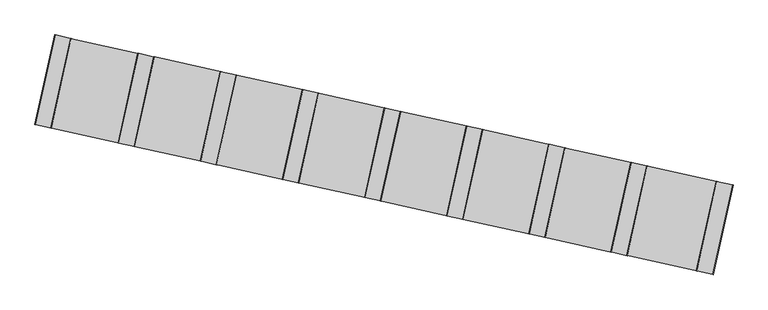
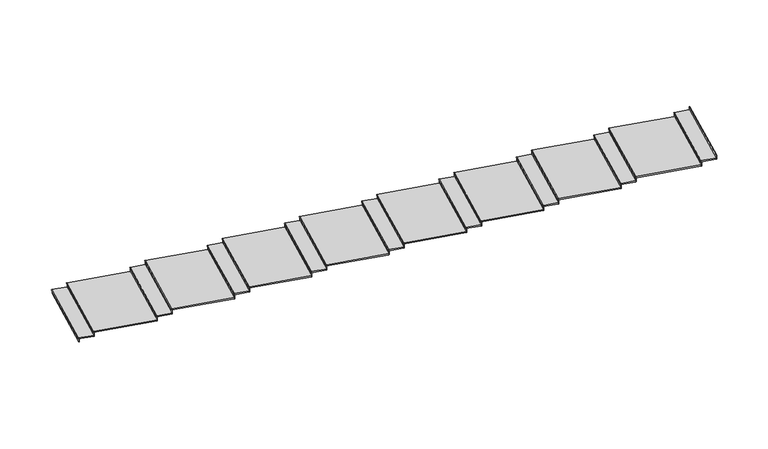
"""IFC4 building model written with IfcOpenShell, lengths in millimetres: stair flight geometry, Wood Steps with 50 mm Tread 20 mm Nosing 13 mm Riser."""

from ifc_helpers import new_model, si_unit, frame, origin, place, context, project, spatial, ellipse_curve, faceted_brep, source, transform, mapped, element, save
from ifc_brep_helpers import plane_surface, cylinder_surface, advanced_brep


def stair_flight_15943dde(model_context):
    return source(origin(), model_context, "Body", "SolidModel", [
        advanced_brep(
        [(870356.5854162, 72354.7463938, 3149.3333333), (870356.5854162, 72354.7463938, 3169.3333333), (871011.6730246, 75320.4431972, 3169.3333333), (871011.6730246, 75320.4431972, 3149.3333333), (871548.026615, 75201.5331851, 3169.3333333), (870892.9390066, 72235.8363816, 3169.3333333), (871011.6730246, 75320.4431972, 3119.3333333), (871548.026615, 75201.5331851, 3119.3333333), (870892.9390066, 72235.8363816, 3119.3333333), (870356.5854162, 72354.7463938, 3119.3333333)],
        [
            (0, 1, ellipse_curve(frame((870356.5854162, 72354.7463938, 3159.3333333), z_axis=(0.2164453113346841, 0.9762947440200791, 0.0), x_axis=(0.9762947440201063, -0.21644531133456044, 0.0)), 10.000003, 10.0)),
            (1, 2),
            (2, 3, ellipse_curve(frame((871011.6730246, 75320.4431972, 3159.3333333), z_axis=(-0.21644531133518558, -0.9762947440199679, 0.0), x_axis=(0.9762947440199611, -0.21644531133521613, 0.0)), 10.000003, 10.0)),
            (3, 0),
            (4, 2),
            (1, 5),
            (5, 4),
            (6, 7),
            (7, 8),
            (8, 9),
            (9, 6),
            (4, 7),
            (6, 3),
            (9, 0),
            (8, 5),
        ],
        [
            cylinder_surface(frame((870356.5854162, 72354.7463938, 3159.3333333), z_axis=(-0.21568901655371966, -0.9764621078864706, 0.0), x_axis=(0.9764621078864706, -0.21568901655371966, 0.0)), 10.0),
            plane_surface(frame((865784.3741298, 76479.3394667, 3169.3333333), z_axis=(0.0, 0.0, 1.0), x_axis=(-0.9762947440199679, 0.21644531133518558, 0.0))),
            plane_surface(frame((865784.3741298, 76479.3394667, 3119.3333333), z_axis=(0.0, 0.0, -1.0), x_axis=(0.9762947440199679, -0.21644531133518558, 0.0))),
            plane_surface(frame((871548.026615, 75201.5331851, 3169.3333333), z_axis=(0.21644531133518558, 0.9762947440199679, 0.0), x_axis=(0.0, 0.0, -1.0))),
            plane_surface(frame((871011.6730246, 75320.4431972, 3169.3333333), z_axis=(-0.9764621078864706, 0.21568901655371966, 0.0), x_axis=(0.0, 0.0, -1.0))),
            plane_surface(frame((870356.5854162, 72354.7463938, 3169.3333333), z_axis=(-0.2164453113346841, -0.9762947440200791, 0.0), x_axis=(0.0, 0.0, -1.0))),
            plane_surface(frame((870892.9390066, 72235.8363816, 3169.3333333), z_axis=(0.976462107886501, -0.21568901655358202, 0.0), x_axis=(0.0, 0.0, -1.0))),
        ],
        [
            (0, [[1, 2, 3, 4]]),
            (1, [[5, -2, 6, 7]]),
            (2, [[8, 9, 10, 11]]),
            (3, [[-5, 12, -8, 13, -3]]),
            (4, [[-11, 14, -4, -13]]),
            (5, [[-6, -1, -14, -10, 15]]),
            (6, [[-7, -15, -9, -12]]),
        ],
    ),
        faceted_brep([(870366.3483666, 72352.58194, 3119.3333333), (870366.3483666, 72352.58194, 3000.0), (870378.5520546, 72349.8763728, 3000.0), (870378.5520546, 72349.8763728, 3119.3333333), (871021.435975, 75318.2787435, 3119.3333333), (871033.6396629, 75315.5731762, 3119.3333333), (871033.6396629, 75315.5731762, 3000.0), (871021.435975, 75318.2787435, 3000.0)], [[[0, 1, 2, 3]], [[4, 5, 6, 7]], [[1, 0, 4, 7]], [[2, 1, 7, 6]], [[3, 2, 6, 5]], [[0, 3, 5, 4]]]),
        faceted_brep([(870892.9390066, 72235.8363816, 3288.6666667), (870892.9390066, 72235.8363816, 3119.3333333), (870905.1426946, 72233.1308144, 3119.3333333), (870905.1426946, 72233.1308144, 3288.6666667), (871548.026615, 75201.5331851, 3288.6666667), (871560.2303029, 75198.8276179, 3288.6666667), (871560.2303029, 75198.8276179, 3119.3333333), (871548.026615, 75201.5331851, 3119.3333333)], [[[0, 1, 2, 3]], [[4, 5, 6, 7]], [[1, 0, 4, 7]], [[2, 1, 7, 6]], [[3, 2, 6, 5]], [[0, 3, 5, 4]]]),
        advanced_brep(
        [(873770.6544649, 74708.7748456, 3338.6666667), (871538.2636646, 75203.6976389, 3338.6666667), (870883.1760562, 72238.0008354, 3338.6666667), (873115.5668565, 71743.0780421, 3338.6666667), (871538.2636646, 75203.6976389, 3288.6666667), (873770.6544649, 74708.7748456, 3288.6666667), (873115.5668565, 71743.0780421, 3288.6666667), (870883.1760562, 72238.0008354, 3288.6666667), (871538.2636646, 75203.6976389, 3318.6666667), (870883.1760562, 72238.0008354, 3318.6666667)],
        [
            (0, 1),
            (1, 2),
            (2, 3),
            (3, 0),
            (4, 5),
            (5, 6),
            (6, 7),
            (7, 4),
            (0, 5),
            (4, 8),
            (8, 1, ellipse_curve(frame((871538.2636646, 75203.6976389, 3328.6666667), z_axis=(0.21644531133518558, 0.9762947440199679, 0.0), x_axis=(0.9762947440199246, -0.2164453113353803, 0.0)), 10.000003, 10.0)),
            (7, 9),
            (9, 8),
            (2, 9, ellipse_curve(frame((870883.1760562, 72238.0008354, 3328.6666667), z_axis=(-0.2164453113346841, -0.9762947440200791, 0.0), x_axis=(0.9762947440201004, -0.21644531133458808, 0.0)), 10.000003, 10.0)),
            (6, 3),
        ],
        [
            plane_surface(frame((865784.3741298, 76479.3394667, 3338.6666667), z_axis=(0.0, 0.0, 1.0), x_axis=(-0.9762947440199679, 0.21644531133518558, 0.0))),
            plane_surface(frame((865784.3741298, 76479.3394667, 3288.6666667), z_axis=(0.0, 0.0, -1.0), x_axis=(0.9762947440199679, -0.21644531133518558, 0.0))),
            plane_surface(frame((873770.6544649, 74708.7748456, 3338.6666667), z_axis=(0.21644531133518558, 0.9762947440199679, 0.0), x_axis=(0.0, 0.0, -1.0))),
            plane_surface(frame((871538.2636646, 75203.6976389, 3338.6666667), z_axis=(-0.976462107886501, 0.21568901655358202, 0.0), x_axis=(0.0, 0.0, -1.0))),
            plane_surface(frame((870883.1760562, 72238.0008354, 3338.6666667), z_axis=(-0.2164453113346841, -0.9762947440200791, 0.0), x_axis=(0.0, 0.0, -1.0))),
            plane_surface(frame((873115.5668565, 71743.0780421, 3338.6666667), z_axis=(0.9764621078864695, -0.21568901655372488, 0.0), x_axis=(0.0, 0.0, -1.0))),
            cylinder_surface(frame((870883.1760562, 72238.0008354, 3328.6666667), z_axis=(-0.21568901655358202, -0.976462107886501, 0.0), x_axis=(0.976462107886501, -0.21568901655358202, 0.0)), 10.0),
        ],
        [
            (0, [[1, 2, 3, 4]]),
            (1, [[5, 6, 7, 8]]),
            (2, [[-1, 9, -5, 10, 11]]),
            (3, [[-8, 12, 13, -10]]),
            (4, [[-3, 14, -12, -7, 15]]),
            (5, [[-4, -15, -6, -9]]),
            (6, [[-14, -2, -11, -13]]),
        ],
    ),
        faceted_brep([(873115.5668565, 71743.0780421, 3458.0), (873115.5668565, 71743.0780421, 3288.6666667), (873127.7705445, 71740.3724749, 3288.6666667), (873127.7705445, 71740.3724749, 3458.0), (873770.6544649, 74708.7748456, 3458.0), (873782.8581528, 74706.0692784, 3458.0), (873782.8581528, 74706.0692784, 3288.6666667), (873770.6544649, 74708.7748456, 3288.6666667)], [[[0, 1, 2, 3]], [[4, 5, 6, 7]], [[1, 0, 4, 7]], [[2, 1, 7, 6]], [[3, 2, 6, 5]], [[0, 3, 5, 4]]]),
        advanced_brep(
        [(874297.2451049, 74592.0292872, 3508.0), (873760.8915145, 74710.9392993, 3508.0), (873105.8039061, 71745.2424959, 3508.0), (873642.1574965, 71626.3324837, 3508.0), (873760.8915145, 74710.9392993, 3458.0), (874297.2451049, 74592.0292872, 3458.0), (873642.1574965, 71626.3324837, 3458.0), (873105.8039061, 71745.2424959, 3458.0), (873760.8915145, 74710.9392993, 3488.0), (873105.8039061, 71745.2424959, 3488.0)],
        [
            (0, 1),
            (1, 2),
            (2, 3),
            (3, 0),
            (4, 5),
            (5, 6),
            (6, 7),
            (7, 4),
            (0, 5),
            (4, 8),
            (8, 1, ellipse_curve(frame((873760.8915145, 74710.9392993, 3498.0), z_axis=(0.21644531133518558, 0.9762947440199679, 0.0), x_axis=(0.9762947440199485, -0.21644531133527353, 0.0)), 10.000003, 10.0)),
            (7, 9),
            (9, 8),
            (2, 9, ellipse_curve(frame((873105.8039061, 71745.2424959, 3498.0), z_axis=(-0.2164453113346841, -0.9762947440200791, 0.0), x_axis=(0.9762947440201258, -0.2164453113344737, 0.0)), 10.000003, 10.0)),
            (6, 3),
        ],
        [
            plane_surface(frame((865784.3741298, 76479.3394667, 3508.0), z_axis=(0.0, 0.0, 1.0), x_axis=(-0.9762947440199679, 0.21644531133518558, 0.0))),
            plane_surface(frame((865784.3741298, 76479.3394667, 3458.0), z_axis=(0.0, 0.0, -1.0), x_axis=(0.9762947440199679, -0.21644531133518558, 0.0))),
            plane_surface(frame((874297.2451049, 74592.0292872, 3508.0), z_axis=(0.21644531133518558, 0.9762947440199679, 0.0), x_axis=(0.0, 0.0, -1.0))),
            plane_surface(frame((873760.8915145, 74710.9392993, 3508.0), z_axis=(-0.9764621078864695, 0.21568901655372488, 0.0), x_axis=(0.0, 0.0, -1.0))),
            plane_surface(frame((873105.8039061, 71745.2424959, 3508.0), z_axis=(-0.2164453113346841, -0.9762947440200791, 0.0), x_axis=(0.0, 0.0, -1.0))),
            plane_surface(frame((873642.1574965, 71626.3324837, 3508.0), z_axis=(0.9764621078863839, -0.2156890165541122, 0.0), x_axis=(0.0, 0.0, -1.0))),
            cylinder_surface(frame((873105.8039061, 71745.2424959, 3498.0), z_axis=(-0.21568901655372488, -0.9764621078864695, 0.0), x_axis=(0.9764621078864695, -0.21568901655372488, 0.0)), 10.0),
        ],
        [
            (0, [[1, 2, 3, 4]]),
            (1, [[5, 6, 7, 8]]),
            (2, [[-1, 9, -5, 10, 11]]),
            (3, [[-8, 12, 13, -10]]),
            (4, [[-3, 14, -12, -7, 15]]),
            (5, [[-4, -15, -6, -9]]),
            (6, [[-14, -2, -11, -13]]),
        ],
    ),
        faceted_brep([(873642.1574965, 71626.3324837, 3627.3333333), (873642.1574965, 71626.3324837, 3458.0), (873654.3611844, 71623.6269165, 3458.0), (873654.3611844, 71623.6269165, 3627.3333333), (874297.2451049, 74592.0292872, 3627.3333333), (874309.4487928, 74589.32372, 3627.3333333), (874309.4487928, 74589.32372, 3458.0), (874297.2451049, 74592.0292872, 3458.0)], [[[0, 1, 2, 3]], [[4, 5, 6, 7]], [[1, 0, 4, 7]], [[2, 1, 7, 6]], [[3, 2, 6, 5]], [[0, 3, 5, 4]]]),
        advanced_brep(
        [(876483.7453142, 74107.2804739, 3677.3333333), (874287.4821545, 74594.193741, 3677.3333333), (873632.3945461, 71628.4969375, 3677.3333333), (875828.6577058, 71141.5836705, 3677.3333333), (874287.4821545, 74594.193741, 3627.3333333), (876483.7453142, 74107.2804739, 3627.3333333), (875828.6577058, 71141.5836705, 3627.3333333), (873632.3945461, 71628.4969375, 3627.3333333), (874287.4821545, 74594.193741, 3657.3333333), (873632.3945461, 71628.4969375, 3657.3333333)],
        [
            (0, 1),
            (1, 2),
            (2, 3),
            (3, 0),
            (4, 5),
            (5, 6),
            (6, 7),
            (7, 4),
            (0, 5),
            (4, 8),
            (8, 1, ellipse_curve(frame((874287.4821545, 74594.193741, 3667.3333333), z_axis=(0.21644531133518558, 0.9762947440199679, 0.0), x_axis=(0.9762947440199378, -0.21644531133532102, 0.0)), 10.000003, 10.0)),
            (7, 9),
            (9, 8),
            (2, 9, ellipse_curve(frame((873632.3945461, 71628.4969375, 3667.3333333), z_axis=(-0.2164453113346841, -0.9762947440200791, 0.0), x_axis=(0.9762947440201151, -0.21644531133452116, 0.0)), 10.000003, 10.0)),
            (6, 3),
        ],
        [
            plane_surface(frame((865784.3741298, 76479.3394667, 3677.3333333), z_axis=(0.0, 0.0, 1.0), x_axis=(-0.9762947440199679, 0.21644531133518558, 0.0))),
            plane_surface(frame((865784.3741298, 76479.3394667, 3627.3333333), z_axis=(0.0, 0.0, -1.0), x_axis=(0.9762947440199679, -0.21644531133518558, 0.0))),
            plane_surface(frame((876483.7453142, 74107.2804739, 3677.3333333), z_axis=(0.21644531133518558, 0.9762947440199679, 0.0), x_axis=(0.0, 0.0, -1.0))),
            plane_surface(frame((874287.4821545, 74594.193741, 3677.3333333), z_axis=(-0.9764621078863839, 0.2156890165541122, 0.0), x_axis=(0.0, 0.0, -1.0))),
            plane_surface(frame((873632.3945461, 71628.4969375, 3677.3333333), z_axis=(-0.2164453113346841, -0.9762947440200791, 0.0), x_axis=(0.0, 0.0, -1.0))),
            plane_surface(frame((875828.6577058, 71141.5836705, 3677.3333333), z_axis=(0.9764621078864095, -0.2156890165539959, 0.0), x_axis=(0.0, 0.0, -1.0))),
            cylinder_surface(frame((873632.3945461, 71628.4969375, 3667.3333333), z_axis=(-0.2156890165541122, -0.9764621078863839, 0.0), x_axis=(0.9764621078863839, -0.2156890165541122, 0.0)), 10.0),
        ],
        [
            (0, [[1, 2, 3, 4]]),
            (1, [[5, 6, 7, 8]]),
            (2, [[-1, 9, -5, 10, 11]]),
            (3, [[-8, 12, 13, -10]]),
            (4, [[-3, 14, -12, -7, 15]]),
            (5, [[-4, -15, -6, -9]]),
            (6, [[-14, -2, -11, -13]]),
        ],
    ),
        faceted_brep([(875828.6577058, 71141.5836705, 3796.6666667), (875828.6577058, 71141.5836705, 3627.3333333), (875840.8613938, 71138.8781033, 3627.3333333), (875840.8613938, 71138.8781033, 3796.6666667), (876483.7453142, 74107.2804739, 3796.6666667), (876495.9490022, 74104.5749067, 3796.6666667), (876495.9490022, 74104.5749067, 3627.3333333), (876483.7453142, 74107.2804739, 3627.3333333)], [[[0, 1, 2, 3]], [[4, 5, 6, 7]], [[1, 0, 4, 7]], [[2, 1, 7, 6]], [[3, 2, 6, 5]], [[0, 3, 5, 4]]]),
        advanced_brep(
        [(877010.3359542, 73990.5349156, 3846.6666667), (876473.9823638, 74109.4449277, 3846.6666667), (875818.8947555, 71143.7481243, 3846.6666667), (876355.2483458, 71024.8381121, 3846.6666667), (876473.9823638, 74109.4449277, 3796.6666667), (877010.3359542, 73990.5349156, 3796.6666667), (876355.2483458, 71024.8381121, 3796.6666667), (875818.8947555, 71143.7481243, 3796.6666667), (876473.9823638, 74109.4449277, 3826.6666667), (875818.8947555, 71143.7481243, 3826.6666667)],
        [
            (0, 1),
            (1, 2),
            (2, 3),
            (3, 0),
            (4, 5),
            (5, 6),
            (6, 7),
            (7, 4),
            (0, 5),
            (4, 8),
            (8, 1, ellipse_curve(frame((876473.9823638, 74109.4449277, 3836.6666667), z_axis=(0.21644531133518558, 0.9762947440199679, 0.0), x_axis=(0.9762947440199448, -0.21644531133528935, 0.0)), 10.000003, 10.0)),
            (7, 9),
            (9, 8),
            (2, 9, ellipse_curve(frame((875818.8947555, 71143.7481243, 3836.6666667), z_axis=(-0.2164453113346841, -0.9762947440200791, 0.0), x_axis=(0.9762947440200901, -0.2164453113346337, 0.0)), 10.000003, 10.0)),
            (6, 3),
        ],
        [
            plane_surface(frame((865784.3741298, 76479.3394667, 3846.6666667), z_axis=(0.0, 0.0, 1.0), x_axis=(-0.9762947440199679, 0.21644531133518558, 0.0))),
            plane_surface(frame((865784.3741298, 76479.3394667, 3796.6666667), z_axis=(0.0, 0.0, -1.0), x_axis=(0.9762947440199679, -0.21644531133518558, 0.0))),
            plane_surface(frame((877010.3359542, 73990.5349156, 3846.6666667), z_axis=(0.21644531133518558, 0.9762947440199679, 0.0), x_axis=(0.0, 0.0, -1.0))),
            plane_surface(frame((876473.9823638, 74109.4449277, 3846.6666667), z_axis=(-0.9764621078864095, 0.2156890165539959, 0.0), x_axis=(0.0, 0.0, -1.0))),
            plane_surface(frame((875818.8947555, 71143.7481243, 3846.6666667), z_axis=(-0.2164453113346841, -0.9762947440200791, 0.0), x_axis=(0.0, 0.0, -1.0))),
            plane_surface(frame((876355.2483458, 71024.8381121, 3846.6666667), z_axis=(0.9764621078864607, -0.21568901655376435, 0.0), x_axis=(0.0, 0.0, -1.0))),
            cylinder_surface(frame((875818.8947555, 71143.7481243, 3836.6666667), z_axis=(-0.2156890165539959, -0.9764621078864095, 0.0), x_axis=(0.9764621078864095, -0.2156890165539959, 0.0)), 10.0),
        ],
        [
            (0, [[1, 2, 3, 4]]),
            (1, [[5, 6, 7, 8]]),
            (2, [[-1, 9, -5, 10, 11]]),
            (3, [[-8, 12, 13, -10]]),
            (4, [[-3, 14, -12, -7, 15]]),
            (5, [[-4, -15, -6, -9]]),
            (6, [[-14, -2, -11, -13]]),
        ],
    ),
        faceted_brep([(876355.2483458, 71024.8381121, 3966.0), (876355.2483458, 71024.8381121, 3796.6666667), (876367.4520338, 71022.1325449, 3796.6666667), (876367.4520338, 71022.1325449, 3966.0), (877010.3359542, 73990.5349156, 3966.0), (877022.5396422, 73987.8293484, 3966.0), (877022.5396422, 73987.8293484, 3796.6666667), (877010.3359542, 73990.5349156, 3796.6666667)], [[[0, 1, 2, 3]], [[4, 5, 6, 7]], [[1, 0, 4, 7]], [[2, 1, 7, 6]], [[3, 2, 6, 5]], [[0, 3, 5, 4]]]),
        advanced_brep(
        [(879196.9376717, 73505.7635979, 4016.0), (877000.5730038, 73992.6993693, 4016.0), (876345.4853955, 71027.0025659, 4016.0), (878541.8500634, 70540.0667944, 4016.0), (877000.5730038, 73992.6993693, 3966.0), (879196.9376717, 73505.7635979, 3966.0), (878541.8500634, 70540.0667944, 3966.0), (876345.4853955, 71027.0025659, 3966.0), (877000.5730038, 73992.6993693, 3996.0), (876345.4853955, 71027.0025659, 3996.0)],
        [
            (0, 1),
            (1, 2),
            (2, 3),
            (3, 0),
            (4, 5),
            (5, 6),
            (6, 7),
            (7, 4),
            (0, 5),
            (4, 8),
            (8, 1, ellipse_curve(frame((877000.5730038, 73992.6993693, 4006.0), z_axis=(0.21644531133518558, 0.9762947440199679, 0.0), x_axis=(0.976294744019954, -0.2164453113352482, 0.0)), 10.000003, 10.0)),
            (7, 9),
            (9, 8),
            (2, 9, ellipse_curve(frame((876345.4853955, 71027.0025659, 4006.0), z_axis=(-0.2164453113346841, -0.9762947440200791, 0.0), x_axis=(0.9762947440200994, -0.21644531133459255, 0.0)), 10.000003, 10.0)),
            (6, 3),
        ],
        [
            plane_surface(frame((865784.3741298, 76479.3394667, 4016.0), z_axis=(0.0, 0.0, 1.0), x_axis=(-0.9762947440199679, 0.21644531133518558, 0.0))),
            plane_surface(frame((865784.3741298, 76479.3394667, 3966.0), z_axis=(0.0, 0.0, -1.0), x_axis=(0.9762947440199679, -0.21644531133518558, 0.0))),
            plane_surface(frame((879196.9376717, 73505.7635979, 4016.0), z_axis=(0.21644531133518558, 0.9762947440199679, 0.0), x_axis=(0.0, 0.0, -1.0))),
            plane_surface(frame((877000.5730038, 73992.6993693, 4016.0), z_axis=(-0.9764621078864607, 0.21568901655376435, 0.0), x_axis=(0.0, 0.0, -1.0))),
            plane_surface(frame((876345.4853955, 71027.0025659, 4016.0), z_axis=(-0.2164453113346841, -0.9762947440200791, 0.0), x_axis=(0.0, 0.0, -1.0))),
            plane_surface(frame((878541.8500634, 70540.0667944, 4016.0), z_axis=(0.9764621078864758, -0.21568901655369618, 0.0), x_axis=(0.0, 0.0, -1.0))),
            cylinder_surface(frame((876345.4853955, 71027.0025659, 4006.0), z_axis=(-0.21568901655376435, -0.9764621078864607, 0.0), x_axis=(0.9764621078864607, -0.21568901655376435, 0.0)), 10.0),
        ],
        [
            (0, [[1, 2, 3, 4]]),
            (1, [[5, 6, 7, 8]]),
            (2, [[-1, 9, -5, 10, 11]]),
            (3, [[-8, 12, 13, -10]]),
            (4, [[-3, 14, -12, -7, 15]]),
            (5, [[-4, -15, -6, -9]]),
            (6, [[-14, -2, -11, -13]]),
        ],
    ),
        faceted_brep([(878541.8500634, 70540.0667944, 4135.3333333), (878541.8500634, 70540.0667944, 3966.0), (878554.0537513, 70537.3612272, 3966.0), (878554.0537513, 70537.3612272, 4135.3333333), (879196.9376717, 73505.7635979, 4135.3333333), (879209.1413597, 73503.0580307, 4135.3333333), (879209.1413597, 73503.0580307, 3966.0), (879196.9376717, 73505.7635979, 3966.0)], [[[0, 1, 2, 3]], [[4, 5, 6, 7]], [[1, 0, 4, 7]], [[2, 1, 7, 6]], [[3, 2, 6, 5]], [[0, 3, 5, 4]]]),
        advanced_brep(
        [(879723.5283117, 73389.0180395, 4185.3333333), (879187.1747214, 73507.9280516, 4185.3333333), (878532.087113, 70542.2312482, 4185.3333333), (879068.4407033, 70423.3212361, 4185.3333333), (879187.1747214, 73507.9280516, 4135.3333333), (879723.5283117, 73389.0180395, 4135.3333333), (879068.4407033, 70423.3212361, 4135.3333333), (878532.087113, 70542.2312482, 4135.3333333), (879187.1747214, 73507.9280516, 4165.3333333), (878532.087113, 70542.2312482, 4165.3333333)],
        [
            (0, 1),
            (1, 2),
            (2, 3),
            (3, 0),
            (4, 5),
            (5, 6),
            (6, 7),
            (7, 4),
            (0, 5),
            (4, 8),
            (8, 1, ellipse_curve(frame((879187.1747214, 73507.9280516, 4175.3333333), z_axis=(0.21644531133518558, 0.9762947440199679, 0.0), x_axis=(0.9762947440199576, -0.2164453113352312, 0.0)), 10.000003, 10.0)),
            (7, 9),
            (9, 8),
            (2, 9, ellipse_curve(frame((878532.087113, 70542.2312482, 4175.3333333), z_axis=(-0.2164453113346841, -0.9762947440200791, 0.0), x_axis=(0.9762947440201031, -0.21644531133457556, 0.0)), 10.000003, 10.0)),
            (6, 3),
        ],
        [
            plane_surface(frame((865784.3741298, 76479.3394667, 4185.3333333), z_axis=(0.0, 0.0, 1.0), x_axis=(-0.9762947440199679, 0.21644531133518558, 0.0))),
            plane_surface(frame((865784.3741298, 76479.3394667, 4135.3333333), z_axis=(0.0, 0.0, -1.0), x_axis=(0.9762947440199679, -0.21644531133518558, 0.0))),
            plane_surface(frame((879723.5283117, 73389.0180395, 4185.3333333), z_axis=(0.21644531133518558, 0.9762947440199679, 0.0), x_axis=(0.0, 0.0, -1.0))),
            plane_surface(frame((879187.1747214, 73507.9280516, 4185.3333333), z_axis=(-0.9764621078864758, 0.21568901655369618, 0.0), x_axis=(0.0, 0.0, -1.0))),
            plane_surface(frame((878532.087113, 70542.2312482, 4185.3333333), z_axis=(-0.2164453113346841, -0.9762947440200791, 0.0), x_axis=(0.0, 0.0, -1.0))),
            plane_surface(frame((879068.4407033, 70423.3212361, 4185.3333333), z_axis=(0.9764621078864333, -0.21568901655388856, 0.0), x_axis=(0.0, 0.0, -1.0))),
            cylinder_surface(frame((878532.087113, 70542.2312482, 4175.3333333), z_axis=(-0.21568901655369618, -0.9764621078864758, 0.0), x_axis=(0.9764621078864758, -0.21568901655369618, 0.0)), 10.0),
        ],
        [
            (0, [[1, 2, 3, 4]]),
            (1, [[5, 6, 7, 8]]),
            (2, [[-1, 9, -5, 10, 11]]),
            (3, [[-8, 12, 13, -10]]),
            (4, [[-3, 14, -12, -7, 15]]),
            (5, [[-4, -15, -6, -9]]),
            (6, [[-14, -2, -11, -13]]),
        ],
    ),
        faceted_brep([(879068.4407033, 70423.3212361, 4304.6666667), (879068.4407033, 70423.3212361, 4135.3333333), (879080.6443913, 70420.6156689, 4135.3333333), (879080.6443913, 70420.6156689, 4304.6666667), (879723.5283117, 73389.0180395, 4304.6666667), (879735.7319997, 73386.3124723, 4304.6666667), (879735.7319997, 73386.3124723, 4135.3333333), (879723.5283117, 73389.0180395, 4135.3333333)], [[[0, 1, 2, 3]], [[4, 5, 6, 7]], [[1, 0, 4, 7]], [[2, 1, 7, 6]], [[3, 2, 6, 5]], [[0, 3, 5, 4]]]),
        advanced_brep(
        [(881910.0124066, 72904.2727989, 4354.6666667), (879713.7653614, 73391.1824933, 4354.6666667), (879058.677753, 70425.4856898, 4354.6666667), (881254.9247982, 69938.5759954, 4354.6666667), (879713.7653614, 73391.1824933, 4304.6666667), (881910.0124066, 72904.2727989, 4304.6666667), (881254.9247982, 69938.5759954, 4304.6666667), (879058.677753, 70425.4856898, 4304.6666667), (879713.7653614, 73391.1824933, 4334.6666667), (879058.677753, 70425.4856898, 4334.6666667)],
        [
            (0, 1),
            (1, 2),
            (2, 3),
            (3, 0),
            (4, 5),
            (5, 6),
            (6, 7),
            (7, 4),
            (0, 5),
            (4, 8),
            (8, 1, ellipse_curve(frame((879713.7653614, 73391.1824933, 4344.6666667), z_axis=(0.21644531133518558, 0.9762947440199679, 0.0), x_axis=(0.9762947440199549, -0.21644531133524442, 0.0)), 10.000003, 10.0)),
            (7, 9),
            (9, 8),
            (2, 9, ellipse_curve(frame((879058.677753, 70425.4856898, 4344.6666667), z_axis=(-0.2164453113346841, -0.9762947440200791, 0.0), x_axis=(0.9762947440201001, -0.21644531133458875, 0.0)), 10.000003, 10.0)),
            (6, 3),
        ],
        [
            plane_surface(frame((865784.3741298, 76479.3394667, 4354.6666667), z_axis=(0.0, 0.0, 1.0), x_axis=(-0.9762947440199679, 0.21644531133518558, 0.0))),
            plane_surface(frame((865784.3741298, 76479.3394667, 4304.6666667), z_axis=(0.0, 0.0, -1.0), x_axis=(0.9762947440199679, -0.21644531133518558, 0.0))),
            plane_surface(frame((881910.0124066, 72904.2727989, 4354.6666667), z_axis=(0.21644531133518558, 0.9762947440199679, 0.0), x_axis=(0.0, 0.0, -1.0))),
            plane_surface(frame((879713.7653614, 73391.1824933, 4354.6666667), z_axis=(-0.9764621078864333, 0.21568901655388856, 0.0), x_axis=(0.0, 0.0, -1.0))),
            plane_surface(frame((879058.677753, 70425.4856898, 4354.6666667), z_axis=(-0.2164453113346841, -0.9762947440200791, 0.0), x_axis=(0.0, 0.0, -1.0))),
            plane_surface(frame((881254.9247982, 69938.5759954, 4354.6666667), z_axis=(0.9764621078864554, -0.2156890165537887, 0.0), x_axis=(0.0, 0.0, -1.0))),
            cylinder_surface(frame((879058.677753, 70425.4856898, 4344.6666667), z_axis=(-0.21568901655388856, -0.9764621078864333, 0.0), x_axis=(0.9764621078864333, -0.21568901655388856, 0.0)), 10.0),
        ],
        [
            (0, [[1, 2, 3, 4]]),
            (1, [[5, 6, 7, 8]]),
            (2, [[-1, 9, -5, 10, 11]]),
            (3, [[-8, 12, 13, -10]]),
            (4, [[-3, 14, -12, -7, 15]]),
            (5, [[-4, -15, -6, -9]]),
            (6, [[-14, -2, -11, -13]]),
        ],
    ),
        faceted_brep([(881254.9247982, 69938.5759954, 4474.0), (881254.9247982, 69938.5759954, 4304.6666667), (881267.1284861, 69935.8704282, 4304.6666667), (881267.1284861, 69935.8704282, 4474.0), (881910.0124066, 72904.2727989, 4474.0), (881922.2160945, 72901.5672317, 4474.0), (881922.2160945, 72901.5672317, 4304.6666667), (881910.0124066, 72904.2727989, 4304.6666667)], [[[0, 1, 2, 3]], [[4, 5, 6, 7]], [[1, 0, 4, 7]], [[2, 1, 7, 6]], [[3, 2, 6, 5]], [[0, 3, 5, 4]]]),
        advanced_brep(
        [(882436.6030466, 72787.5272405, 4524.0), (881900.2494562, 72906.4372526, 4524.0), (881245.1618478, 69940.7404492, 4524.0), (881781.5154382, 69821.8304371, 4524.0), (881900.2494562, 72906.4372526, 4474.0), (882436.6030466, 72787.5272405, 4474.0), (881781.5154382, 69821.8304371, 4474.0), (881245.1618478, 69940.7404492, 4474.0), (881900.2494562, 72906.4372526, 4504.0), (881245.1618478, 69940.7404492, 4504.0)],
        [
            (0, 1),
            (1, 2),
            (2, 3),
            (3, 0),
            (4, 5),
            (5, 6),
            (6, 7),
            (7, 4),
            (0, 5),
            (4, 8),
            (8, 1, ellipse_curve(frame((881900.2494562, 72906.4372526, 4514.0), z_axis=(0.21644531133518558, 0.9762947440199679, 0.0), x_axis=(0.9762947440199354, -0.2164453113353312, 0.0)), 10.000003, 10.0)),
            (7, 9),
            (9, 8),
            (2, 9, ellipse_curve(frame((881245.1618478, 69940.7404492, 4514.0), z_axis=(-0.2164453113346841, -0.9762947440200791, 0.0), x_axis=(0.9762947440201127, -0.21644531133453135, 0.0)), 10.000003, 10.0)),
            (6, 3),
        ],
        [
            plane_surface(frame((865784.3741298, 76479.3394667, 4524.0), z_axis=(0.0, 0.0, 1.0), x_axis=(-0.9762947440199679, 0.21644531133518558, 0.0))),
            plane_surface(frame((865784.3741298, 76479.3394667, 4474.0), z_axis=(0.0, 0.0, -1.0), x_axis=(0.9762947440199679, -0.21644531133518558, 0.0))),
            plane_surface(frame((882436.6030466, 72787.5272405, 4524.0), z_axis=(0.21644531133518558, 0.9762947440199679, 0.0), x_axis=(0.0, 0.0, -1.0))),
            plane_surface(frame((881900.2494562, 72906.4372526, 4524.0), z_axis=(-0.9764621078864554, 0.2156890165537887, 0.0), x_axis=(0.0, 0.0, -1.0))),
            plane_surface(frame((881245.1618478, 69940.7404492, 4524.0), z_axis=(-0.2164453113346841, -0.9762947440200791, 0.0), x_axis=(0.0, 0.0, -1.0))),
            plane_surface(frame((881781.5154382, 69821.8304371, 4524.0), z_axis=(0.9764621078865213, -0.21568901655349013, 0.0), x_axis=(0.0, 0.0, -1.0))),
            cylinder_surface(frame((881245.1618478, 69940.7404492, 4514.0), z_axis=(-0.2156890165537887, -0.9764621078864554, 0.0), x_axis=(0.9764621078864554, -0.2156890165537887, 0.0)), 10.0),
        ],
        [
            (0, [[1, 2, 3, 4]]),
            (1, [[5, 6, 7, 8]]),
            (2, [[-1, 9, -5, 10, 11]]),
            (3, [[-8, 12, 13, -10]]),
            (4, [[-3, 14, -12, -7, 15]]),
            (5, [[-4, -15, -6, -9]]),
            (6, [[-14, -2, -11, -13]]),
        ],
    ),
        faceted_brep([(881781.5154382, 69821.8304371, 4643.3333333), (881781.5154382, 69821.8304371, 4474.0), (881793.7191261, 69819.1248698, 4474.0), (881793.7191261, 69819.1248698, 4643.3333333), (882436.6030466, 72787.5272405, 4643.3333333), (882448.8067345, 72784.8216733, 4643.3333333), (882448.8067345, 72784.8216733, 4474.0), (882436.6030466, 72787.5272405, 4474.0)], [[[0, 1, 2, 3]], [[4, 5, 6, 7]], [[1, 0, 4, 7]], [[2, 1, 7, 6]], [[3, 2, 6, 5]], [[0, 3, 5, 4]]]),
        advanced_brep(
        [(884623.0871414, 72302.7819999, 4693.3333333), (882426.8400962, 72789.6916943, 4693.3333333), (881771.7524878, 69823.9948908, 4693.3333333), (883967.999533, 69337.0851964, 4693.3333333), (882426.8400962, 72789.6916943, 4643.3333333), (884623.0871414, 72302.7819999, 4643.3333333), (883967.999533, 69337.0851964, 4643.3333333), (881771.7524878, 69823.9948908, 4643.3333333), (882426.8400962, 72789.6916943, 4673.3333333), (881771.7524878, 69823.9948908, 4673.3333333)],
        [
            (0, 1),
            (1, 2),
            (2, 3),
            (3, 0),
            (4, 5),
            (5, 6),
            (6, 7),
            (7, 4),
            (0, 5),
            (4, 8),
            (8, 1, ellipse_curve(frame((882426.8400962, 72789.6916943, 4683.3333333), z_axis=(0.21644531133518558, 0.9762947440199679, 0.0), x_axis=(0.9762947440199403, -0.2164453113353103, 0.0)), 10.000003, 10.0)),
            (7, 9),
            (9, 8),
            (2, 9, ellipse_curve(frame((881771.7524878, 69823.9948908, 4683.3333333), z_axis=(-0.2164453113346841, -0.9762947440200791, 0.0), x_axis=(0.976294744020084, -0.21644531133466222, 0.0)), 10.000003, 10.0)),
            (6, 3),
        ],
        [
            plane_surface(frame((865784.3741298, 76479.3394667, 4693.3333333), z_axis=(0.0, 0.0, 1.0), x_axis=(-0.9762947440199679, 0.21644531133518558, 0.0))),
            plane_surface(frame((865784.3741298, 76479.3394667, 4643.3333333), z_axis=(0.0, 0.0, -1.0), x_axis=(0.9762947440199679, -0.21644531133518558, 0.0))),
            plane_surface(frame((884623.0871414, 72302.7819999, 4693.3333333), z_axis=(0.21644531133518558, 0.9762947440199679, 0.0), x_axis=(0.0, 0.0, -1.0))),
            plane_surface(frame((882426.8400962, 72789.6916943, 4693.3333333), z_axis=(-0.9764621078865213, 0.21568901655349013, 0.0), x_axis=(0.0, 0.0, -1.0))),
            plane_surface(frame((881771.7524878, 69823.9948908, 4693.3333333), z_axis=(-0.2164453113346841, -0.9762947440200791, 0.0), x_axis=(0.0, 0.0, -1.0))),
            plane_surface(frame((883967.999533, 69337.0851964, 4693.3333333), z_axis=(0.9764621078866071, -0.21568901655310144, 0.0), x_axis=(0.0, 0.0, -1.0))),
            cylinder_surface(frame((881771.7524878, 69823.9948908, 4683.3333333), z_axis=(-0.21568901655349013, -0.9764621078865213, 0.0), x_axis=(0.9764621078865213, -0.21568901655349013, 0.0)), 10.0),
        ],
        [
            (0, [[1, 2, 3, 4]]),
            (1, [[5, 6, 7, 8]]),
            (2, [[-1, 9, -5, 10, 11]]),
            (3, [[-8, 12, 13, -10]]),
            (4, [[-3, 14, -12, -7, 15]]),
            (5, [[-4, -15, -6, -9]]),
            (6, [[-14, -2, -11, -13]]),
        ],
    ),
        faceted_brep([(883967.999533, 69337.0851964, 4812.6666667), (883967.999533, 69337.0851964, 4643.3333333), (883980.203221, 69334.3796292, 4643.3333333), (883980.203221, 69334.3796292, 4812.6666667), (884623.0871414, 72302.7819999, 4812.6666667), (884635.2908294, 72300.0764326, 4812.6666667), (884635.2908294, 72300.0764326, 4643.3333333), (884623.0871414, 72302.7819999, 4643.3333333)], [[[0, 1, 2, 3]], [[4, 5, 6, 7]], [[1, 0, 4, 7]], [[2, 1, 7, 6]], [[3, 2, 6, 5]], [[0, 3, 5, 4]]]),
        advanced_brep(
        [(885149.6777814, 72186.0364415, 4862.6666667), (884613.324191, 72304.9464536, 4862.6666667), (883958.2365826, 69339.2496502, 4862.6666667), (884494.590173, 69220.339638, 4862.6666667), (884613.324191, 72304.9464536, 4812.6666667), (885149.6777814, 72186.0364415, 4812.6666667), (884494.590173, 69220.339638, 4812.6666667), (883958.2365826, 69339.2496502, 4812.6666667), (884613.324191, 72304.9464536, 4842.6666667), (883958.2365826, 69339.2496502, 4842.6666667)],
        [
            (0, 1),
            (1, 2),
            (2, 3),
            (3, 0),
            (4, 5),
            (5, 6),
            (6, 7),
            (7, 4),
            (0, 5),
            (4, 8),
            (8, 1, ellipse_curve(frame((884613.324191, 72304.9464536, 4852.6666667), z_axis=(0.21644531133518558, 0.9762947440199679, 0.0), x_axis=(0.9762947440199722, -0.21644531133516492, 0.0)), 10.000003, 10.0)),
            (7, 9),
            (9, 8),
            (2, 9, ellipse_curve(frame((883958.2365826, 69339.2496502, 4852.6666667), z_axis=(-0.2164453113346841, -0.9762947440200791, 0.0), x_axis=(0.9762947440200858, -0.2164453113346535, 0.0)), 10.000003, 10.0)),
            (6, 3),
        ],
        [
            plane_surface(frame((865784.3741298, 76479.3394667, 4862.6666667), z_axis=(0.0, 0.0, 1.0), x_axis=(-0.9762947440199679, 0.21644531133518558, 0.0))),
            plane_surface(frame((865784.3741298, 76479.3394667, 4812.6666667), z_axis=(0.0, 0.0, -1.0), x_axis=(0.9762947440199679, -0.21644531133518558, 0.0))),
            plane_surface(frame((885149.6777814, 72186.0364415, 4862.6666667), z_axis=(0.21644531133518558, 0.9762947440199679, 0.0), x_axis=(0.0, 0.0, -1.0))),
            plane_surface(frame((884613.324191, 72304.9464536, 4862.6666667), z_axis=(-0.9764621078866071, 0.21568901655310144, 0.0), x_axis=(0.0, 0.0, -1.0))),
            plane_surface(frame((883958.2365826, 69339.2496502, 4862.6666667), z_axis=(-0.2164453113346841, -0.9762947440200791, 0.0), x_axis=(0.0, 0.0, -1.0))),
            plane_surface(frame((884494.590173, 69220.339638, 4862.6666667), z_axis=(0.9764621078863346, -0.2156890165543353, 0.0), x_axis=(0.0, 0.0, -1.0))),
            cylinder_surface(frame((883958.2365826, 69339.2496502, 4852.6666667), z_axis=(-0.21568901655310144, -0.9764621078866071, 0.0), x_axis=(0.9764621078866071, -0.21568901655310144, 0.0)), 10.0),
        ],
        [
            (0, [[1, 2, 3, 4]]),
            (1, [[5, 6, 7, 8]]),
            (2, [[-1, 9, -5, 10, 11]]),
            (3, [[-8, 12, 13, -10]]),
            (4, [[-3, 14, -12, -7, 15]]),
            (5, [[-4, -15, -6, -9]]),
            (6, [[-14, -2, -11, -13]]),
        ],
    ),
        faceted_brep([(884494.590173, 69220.339638, 4982.0), (884494.590173, 69220.339638, 4812.6666667), (884506.793861, 69217.6340708, 4812.6666667), (884506.793861, 69217.6340708, 4982.0), (885149.6777814, 72186.0364415, 4982.0), (885161.8814693, 72183.3308743, 4982.0), (885161.8814693, 72183.3308743, 4812.6666667), (885149.6777814, 72186.0364415, 4812.6666667)], [[[0, 1, 2, 3]], [[4, 5, 6, 7]], [[1, 0, 4, 7]], [[2, 1, 7, 6]], [[3, 2, 6, 5]], [[0, 3, 5, 4]]]),
        advanced_brep(
        [(887336.1618762, 71701.2912008, 5032.0), (885139.914831, 72188.2008952, 5032.0), (884484.8272226, 69222.5040918, 5032.0), (886681.0742678, 68735.5943974, 5032.0), (885139.914831, 72188.2008952, 4982.0), (887336.1618762, 71701.2912008, 4982.0), (886681.0742678, 68735.5943974, 4982.0), (884484.8272226, 69222.5040918, 4982.0), (885139.914831, 72188.2008952, 5012.0), (884484.8272226, 69222.5040918, 5012.0)],
        [
            (0, 1),
            (1, 2),
            (2, 3),
            (3, 0),
            (4, 5),
            (5, 6),
            (6, 7),
            (7, 4),
            (0, 5),
            (4, 8),
            (8, 1, ellipse_curve(frame((885139.914831, 72188.2008952, 5022.0), z_axis=(0.21644531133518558, 0.9762947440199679, 0.0), x_axis=(0.976294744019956, -0.2164453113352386, 0.0)), 10.000003, 10.0)),
            (7, 9),
            (9, 8),
            (2, 9, ellipse_curve(frame((884484.8272226, 69222.5040918, 5022.0), z_axis=(-0.2164453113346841, -0.9762947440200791, 0.0), x_axis=(0.9762947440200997, -0.21644531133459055, 0.0)), 10.000003, 10.0)),
            (6, 3),
        ],
        [
            plane_surface(frame((865784.3741298, 76479.3394667, 5032.0), z_axis=(0.0, 0.0, 1.0), x_axis=(-0.9762947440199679, 0.21644531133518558, 0.0))),
            plane_surface(frame((865784.3741298, 76479.3394667, 4982.0), z_axis=(0.0, 0.0, -1.0), x_axis=(0.9762947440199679, -0.21644531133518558, 0.0))),
            plane_surface(frame((887336.1618762, 71701.2912008, 5032.0), z_axis=(0.21644531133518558, 0.9762947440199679, 0.0), x_axis=(0.0, 0.0, -1.0))),
            plane_surface(frame((885139.914831, 72188.2008952, 5032.0), z_axis=(-0.9764621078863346, 0.2156890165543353, 0.0), x_axis=(0.0, 0.0, -1.0))),
            plane_surface(frame((884484.8272226, 69222.5040918, 5032.0), z_axis=(-0.2164453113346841, -0.9762947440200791, 0.0), x_axis=(0.0, 0.0, -1.0))),
            plane_surface(frame((886681.0742678, 68735.5943974, 5032.0), z_axis=(0.9764621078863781, -0.21568901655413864, 0.0), x_axis=(0.0, 0.0, -1.0))),
            cylinder_surface(frame((884484.8272226, 69222.5040918, 5022.0), z_axis=(-0.2156890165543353, -0.9764621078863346, 0.0), x_axis=(0.9764621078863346, -0.2156890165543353, 0.0)), 10.0),
        ],
        [
            (0, [[1, 2, 3, 4]]),
            (1, [[5, 6, 7, 8]]),
            (2, [[-1, 9, -5, 10, 11]]),
            (3, [[-8, 12, 13, -10]]),
            (4, [[-3, 14, -12, -7, 15]]),
            (5, [[-4, -15, -6, -9]]),
            (6, [[-14, -2, -11, -13]]),
        ],
    ),
        faceted_brep([(886681.0742678, 68735.5943974, 5151.3333333), (886681.0742678, 68735.5943974, 4982.0), (886693.2779558, 68732.8888302, 4982.0), (886693.2779558, 68732.8888302, 5151.3333333), (887336.1618762, 71701.2912008, 5151.3333333), (887348.3655642, 71698.5856336, 5151.3333333), (887348.3655642, 71698.5856336, 4982.0), (887336.1618762, 71701.2912008, 4982.0)], [[[0, 1, 2, 3]], [[4, 5, 6, 7]], [[1, 0, 4, 7]], [[2, 1, 7, 6]], [[3, 2, 6, 5]], [[0, 3, 5, 4]]]),
        advanced_brep(
        [(887862.7525162, 71584.5456425, 5201.3333333), (887326.3989259, 71703.4556546, 5201.3333333), (886671.3113175, 68737.7588511, 5201.3333333), (887207.6649078, 68618.848839, 5201.3333333), (887326.3989259, 71703.4556546, 5151.3333333), (887862.7525162, 71584.5456425, 5151.3333333), (887207.6649078, 68618.848839, 5151.3333333), (886671.3113175, 68737.7588511, 5151.3333333), (887326.3989259, 71703.4556546, 5181.3333333), (886671.3113175, 68737.7588511, 5181.3333333)],
        [
            (0, 1),
            (1, 2),
            (2, 3),
            (3, 0),
            (4, 5),
            (5, 6),
            (6, 7),
            (7, 4),
            (0, 5),
            (4, 8),
            (8, 1, ellipse_curve(frame((887326.3989259, 71703.4556546, 5191.3333333), z_axis=(0.21644531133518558, 0.9762947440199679, 0.0), x_axis=(0.9762947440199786, -0.21644531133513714, 0.0)), 10.000003, 10.0)),
            (7, 9),
            (9, 8),
            (2, 9, ellipse_curve(frame((886671.3113175, 68737.7588511, 5191.3333333), z_axis=(-0.2164453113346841, -0.9762947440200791, 0.0), x_axis=(0.976294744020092, -0.21644531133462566, 0.0)), 10.000003, 10.0)),
            (6, 3),
        ],
        [
            plane_surface(frame((865784.3741298, 76479.3394667, 5201.3333333), z_axis=(0.0, 0.0, 1.0), x_axis=(-0.9762947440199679, 0.21644531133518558, 0.0))),
            plane_surface(frame((865784.3741298, 76479.3394667, 5151.3333333), z_axis=(0.0, 0.0, -1.0), x_axis=(0.9762947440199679, -0.21644531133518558, 0.0))),
            plane_surface(frame((887862.7525162, 71584.5456425, 5201.3333333), z_axis=(0.21644531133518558, 0.9762947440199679, 0.0), x_axis=(0.0, 0.0, -1.0))),
            plane_surface(frame((887326.3989259, 71703.4556546, 5201.3333333), z_axis=(-0.9764621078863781, 0.21568901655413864, 0.0), x_axis=(0.0, 0.0, -1.0))),
            plane_surface(frame((886671.3113175, 68737.7588511, 5201.3333333), z_axis=(-0.2164453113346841, -0.9762947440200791, 0.0), x_axis=(0.0, 0.0, -1.0))),
            plane_surface(frame((887207.6649078, 68618.848839, 5201.3333333), z_axis=(0.9764621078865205, -0.21568901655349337, 0.0), x_axis=(0.0, 0.0, -1.0))),
            cylinder_surface(frame((886671.3113175, 68737.7588511, 5191.3333333), z_axis=(-0.21568901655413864, -0.9764621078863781, 0.0), x_axis=(0.9764621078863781, -0.21568901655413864, 0.0)), 10.0),
        ],
        [
            (0, [[1, 2, 3, 4]]),
            (1, [[5, 6, 7, 8]]),
            (2, [[-1, 9, -5, 10, 11]]),
            (3, [[-8, 12, 13, -10]]),
            (4, [[-3, 14, -12, -7, 15]]),
            (5, [[-4, -15, -6, -9]]),
            (6, [[-14, -2, -11, -13]]),
        ],
    ),
        faceted_brep([(887207.6649078, 68618.848839, 5320.6666667), (887207.6649078, 68618.848839, 5151.3333333), (887219.8685958, 68616.1432718, 5151.3333333), (887219.8685958, 68616.1432718, 5320.6666667), (887862.7525162, 71584.5456425, 5320.6666667), (887874.9562042, 71581.8400753, 5320.6666667), (887874.9562042, 71581.8400753, 5151.3333333), (887862.7525162, 71584.5456425, 5151.3333333)], [[[0, 1, 2, 3]], [[4, 5, 6, 7]], [[1, 0, 4, 7]], [[2, 1, 7, 6]], [[3, 2, 6, 5]], [[0, 3, 5, 4]]]),
        advanced_brep(
        [(890049.4025773, 71099.763607, 5370.6666667), (887852.9895658, 71586.7100962, 5370.6666667), (887197.9019575, 68621.0132928, 5370.6666667), (889394.3149689, 68134.0668035, 5370.6666667), (887852.9895658, 71586.7100962, 5320.6666667), (890049.4025773, 71099.763607, 5320.6666667), (889394.3149689, 68134.0668035, 5320.6666667), (887197.9019575, 68621.0132928, 5320.6666667), (887852.9895658, 71586.7100962, 5350.6666667), (887197.9019575, 68621.0132928, 5350.6666667)],
        [
            (0, 1),
            (1, 2),
            (2, 3),
            (3, 0),
            (4, 5),
            (5, 6),
            (6, 7),
            (7, 4),
            (0, 5),
            (4, 8),
            (8, 1, ellipse_curve(frame((887852.9895658, 71586.7100962, 5360.6666667), z_axis=(0.21644531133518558, 0.9762947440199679, 0.0), x_axis=(0.9762947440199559, -0.2164453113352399, 0.0)), 10.000003, 10.0)),
            (7, 9),
            (9, 8),
            (2, 9, ellipse_curve(frame((887197.9019575, 68621.0132928, 5360.6666667), z_axis=(-0.2164453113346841, -0.9762947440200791, 0.0), x_axis=(0.9762947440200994, -0.2164453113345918, 0.0)), 10.000003, 10.0)),
            (6, 3),
        ],
        [
            plane_surface(frame((865784.3741298, 76479.3394667, 5370.6666667), z_axis=(0.0, 0.0, 1.0), x_axis=(-0.9762947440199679, 0.21644531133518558, 0.0))),
            plane_surface(frame((865784.3741298, 76479.3394667, 5320.6666667), z_axis=(0.0, 0.0, -1.0), x_axis=(0.9762947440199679, -0.21644531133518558, 0.0))),
            plane_surface(frame((890049.4025773, 71099.763607, 5370.6666667), z_axis=(0.21644531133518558, 0.9762947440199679, 0.0), x_axis=(0.0, 0.0, -1.0))),
            plane_surface(frame((887852.9895658, 71586.7100962, 5370.6666667), z_axis=(-0.9764621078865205, 0.21568901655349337, 0.0), x_axis=(0.0, 0.0, -1.0))),
            plane_surface(frame((887197.9019575, 68621.0132928, 5370.6666667), z_axis=(-0.2164453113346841, -0.9762947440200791, 0.0), x_axis=(0.0, 0.0, -1.0))),
            plane_surface(frame((889394.3149689, 68134.0668035, 5370.6666667), z_axis=(0.9764621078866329, -0.21568901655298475, 0.0), x_axis=(0.0, 0.0, -1.0))),
            cylinder_surface(frame((887197.9019575, 68621.0132928, 5360.6666667), z_axis=(-0.21568901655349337, -0.9764621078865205, 0.0), x_axis=(0.9764621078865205, -0.21568901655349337, 0.0)), 10.0),
        ],
        [
            (0, [[1, 2, 3, 4]]),
            (1, [[5, 6, 7, 8]]),
            (2, [[-1, 9, -5, 10, 11]]),
            (3, [[-8, 12, 13, -10]]),
            (4, [[-3, 14, -12, -7, 15]]),
            (5, [[-4, -15, -6, -9]]),
            (6, [[-14, -2, -11, -13]]),
        ],
    ),
        faceted_brep([(889394.3149689, 68134.0668035, 5490.0), (889394.3149689, 68134.0668035, 5320.6666667), (889406.5186569, 68131.3612363, 5320.6666667), (889406.5186569, 68131.3612363, 5490.0), (890049.4025773, 71099.763607, 5490.0), (890061.6062652, 71097.0580398, 5490.0), (890061.6062652, 71097.0580398, 5320.6666667), (890049.4025773, 71099.763607, 5320.6666667)], [[[0, 1, 2, 3]], [[4, 5, 6, 7]], [[1, 0, 4, 7]], [[2, 1, 7, 6]], [[3, 2, 6, 5]], [[0, 3, 5, 4]]]),
        advanced_brep(
        [(890575.9932173, 70983.0180486, 5540.0), (890039.6396269, 71101.9280607, 5540.0), (889384.5520185, 68136.2312573, 5540.0), (889920.9056089, 68017.3212452, 5540.0), (890039.6396269, 71101.9280607, 5490.0), (890575.9932173, 70983.0180486, 5490.0), (889920.9056089, 68017.3212452, 5490.0), (889384.5520185, 68136.2312573, 5490.0), (890039.6396269, 71101.9280607, 5520.0), (889384.5520185, 68136.2312573, 5520.0)],
        [
            (0, 1),
            (1, 2),
            (2, 3),
            (3, 0),
            (4, 5),
            (5, 6),
            (6, 7),
            (7, 4),
            (0, 5),
            (4, 8),
            (8, 1, ellipse_curve(frame((890039.6396269, 71101.9280607, 5530.0), z_axis=(0.21644531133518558, 0.9762947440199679, 0.0), x_axis=(0.976294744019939, -0.2164453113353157, 0.0)), 10.000003, 10.0)),
            (7, 9),
            (9, 8),
            (2, 9, ellipse_curve(frame((889384.5520185, 68136.2312573, 5530.0), z_axis=(-0.2164453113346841, -0.9762947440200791, 0.0), x_axis=(0.9762947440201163, -0.21644531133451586, 0.0)), 10.000003, 10.0)),
            (6, 3),
        ],
        [
            plane_surface(frame((865784.3741298, 76479.3394667, 5540.0), z_axis=(0.0, 0.0, 1.0), x_axis=(-0.9762947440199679, 0.21644531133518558, 0.0))),
            plane_surface(frame((865784.3741298, 76479.3394667, 5490.0), z_axis=(0.0, 0.0, -1.0), x_axis=(0.9762947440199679, -0.21644531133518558, 0.0))),
            plane_surface(frame((890575.9932173, 70983.0180486, 5540.0), z_axis=(0.21644531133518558, 0.9762947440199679, 0.0), x_axis=(0.0, 0.0, -1.0))),
            plane_surface(frame((890039.6396269, 71101.9280607, 5540.0), z_axis=(-0.9764621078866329, 0.21568901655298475, 0.0), x_axis=(0.0, 0.0, -1.0))),
            plane_surface(frame((889384.5520185, 68136.2312573, 5540.0), z_axis=(-0.2164453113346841, -0.9762947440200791, 0.0), x_axis=(0.0, 0.0, -1.0))),
            plane_surface(frame((889920.9056089, 68017.3212452, 5540.0), z_axis=(0.9764621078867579, -0.21568901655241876, 0.0), x_axis=(0.0, 0.0, -1.0))),
            cylinder_surface(frame((889384.5520185, 68136.2312573, 5530.0), z_axis=(-0.21568901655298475, -0.9764621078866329, 0.0), x_axis=(0.9764621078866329, -0.21568901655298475, 0.0)), 10.0),
        ],
        [
            (0, [[1, 2, 3, 4]]),
            (1, [[5, 6, 7, 8]]),
            (2, [[-1, 9, -5, 10, 11]]),
            (3, [[-8, 12, 13, -10]]),
            (4, [[-3, 14, -12, -7, 15]]),
            (5, [[-4, -15, -6, -9]]),
            (6, [[-14, -2, -11, -13]]),
        ],
    ),
        faceted_brep([(889920.9056089, 68017.3212452, 5659.3333333), (889920.9056089, 68017.3212452, 5490.0), (889933.1092968, 68014.615678, 5490.0), (889933.1092968, 68014.615678, 5659.3333333), (890575.9932173, 70983.0180486, 5659.3333333), (890588.1969052, 70980.3124814, 5659.3333333), (890588.1969052, 70980.3124814, 5490.0), (890575.9932173, 70983.0180486, 5490.0)], [[[0, 1, 2, 3]], [[4, 5, 6, 7]], [[1, 0, 4, 7]], [[2, 1, 7, 6]], [[3, 2, 6, 5]], [[0, 3, 5, 4]]]),
        advanced_brep(
        [(892872.0733657, 70473.9752768, 5709.3333333), (890566.2302669, 70985.1825024, 5709.3333333), (889911.1426585, 68019.4856989, 5709.3333333), (892216.9857573, 67508.2784734, 5709.3333333), (890566.2302669, 70985.1825024, 5659.3333333), (892872.0733657, 70473.9752768, 5659.3333333), (892216.9857573, 67508.2784734, 5659.3333333), (889911.1426585, 68019.4856989, 5659.3333333), (890566.2302669, 70985.1825024, 5689.3333333), (889911.1426585, 68019.4856989, 5689.3333333)],
        [
            (0, 1),
            (1, 2),
            (2, 3),
            (3, 0),
            (4, 5),
            (5, 6),
            (6, 7),
            (7, 4),
            (0, 5),
            (4, 8),
            (8, 1, ellipse_curve(frame((890566.2302669, 70985.1825024, 5699.3333333), z_axis=(0.21644531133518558, 0.9762947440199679, 0.0), x_axis=(0.9762947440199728, -0.2164453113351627, 0.0)), 10.000003, 10.0)),
            (7, 9),
            (9, 8),
            (2, 9, ellipse_curve(frame((889911.1426585, 68019.4856989, 5699.3333333), z_axis=(-0.2164453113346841, -0.9762947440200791, 0.0), x_axis=(0.9762947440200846, -0.21644531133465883, 0.0)), 10.000003, 10.0)),
            (6, 3),
        ],
        [
            plane_surface(frame((865784.3741298, 76479.3394667, 5709.3333333), z_axis=(0.0, 0.0, 1.0), x_axis=(-0.9762947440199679, 0.21644531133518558, 0.0))),
            plane_surface(frame((865784.3741298, 76479.3394667, 5659.3333333), z_axis=(0.0, 0.0, -1.0), x_axis=(0.9762947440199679, -0.21644531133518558, 0.0))),
            plane_surface(frame((892872.0733657, 70473.9752768, 5709.3333333), z_axis=(0.21644531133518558, 0.9762947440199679, 0.0), x_axis=(0.0, 0.0, -1.0))),
            plane_surface(frame((890566.2302669, 70985.1825024, 5709.3333333), z_axis=(-0.9764621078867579, 0.21568901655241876, 0.0), x_axis=(0.0, 0.0, -1.0))),
            plane_surface(frame((889911.1426585, 68019.4856989, 5709.3333333), z_axis=(-0.2164453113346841, -0.9762947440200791, 0.0), x_axis=(0.0, 0.0, -1.0))),
            plane_surface(frame((892216.9857573, 67508.2784734, 5709.3333333), z_axis=(0.9764621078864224, -0.2156890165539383, 0.0), x_axis=(0.0, 0.0, -1.0))),
            cylinder_surface(frame((889911.1426585, 68019.4856989, 5699.3333333), z_axis=(-0.21568901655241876, -0.9764621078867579, 0.0), x_axis=(0.9764621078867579, -0.21568901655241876, 0.0)), 10.0),
        ],
        [
            (0, [[1, 2, 3, 4]]),
            (1, [[5, 6, 7, 8]]),
            (2, [[-1, 9, -5, 10, 11]]),
            (3, [[-8, 12, 13, -10]]),
            (4, [[-3, 14, -12, -7, 15]]),
            (5, [[-4, -15, -6, -9]]),
            (6, [[-14, -2, -11, -13]]),
        ],
    ),
        faceted_brep([(892216.9857573, 67508.2784734, 5828.6666667), (892216.9857573, 67508.2784734, 5659.3333333), (892229.1894453, 67505.5729062, 5659.3333333), (892229.1894453, 67505.5729062, 5828.6666667), (892872.0733657, 70473.9752768, 5828.6666667), (892884.2770537, 70471.2697096, 5828.6666667), (892884.2770537, 70471.2697096, 5659.3333333), (892872.0733657, 70473.9752768, 5659.3333333)], [[[0, 1, 2, 3]], [[4, 5, 6, 7]], [[1, 0, 4, 7]], [[2, 1, 7, 6]], [[3, 2, 6, 5]], [[0, 3, 5, 4]]]),
        faceted_brep([(892743.5763973, 67391.532915, 5998.0), (892743.5763973, 67391.532915, 5828.6666667), (892755.7800853, 67388.8273478, 5828.6666667), (892755.7800853, 67388.8273478, 5998.0), (893398.6640057, 70357.2297185, 5998.0), (893410.8676937, 70354.5241513, 5998.0), (893410.8676937, 70354.5241513, 5828.6666667), (893398.6640057, 70357.2297185, 5828.6666667)], [[[0, 1, 2, 3]], [[4, 5, 6, 7]], [[1, 0, 4, 7]], [[2, 1, 7, 6]], [[3, 2, 6, 5]], [[0, 3, 5, 4]]]),
        advanced_brep(
        [(893398.6640057, 70357.2297185, 5878.6666667), (892862.3104153, 70476.1397306, 5878.6666667), (892207.222807, 67510.4429271, 5878.6666667), (892743.5763973, 67391.532915, 5878.6666667), (892862.3104153, 70476.1397306, 5828.6666667), (893398.6640057, 70357.2297185, 5828.6666667), (892743.5763973, 67391.532915, 5828.6666667), (892207.222807, 67510.4429271, 5828.6666667), (892862.3104153, 70476.1397306, 5858.6666667), (892207.222807, 67510.4429271, 5858.6666667)],
        [
            (0, 1),
            (1, 2),
            (2, 3),
            (3, 0),
            (4, 5),
            (5, 6),
            (6, 7),
            (7, 4),
            (0, 5),
            (4, 8),
            (8, 1, ellipse_curve(frame((892862.3104153, 70476.1397306, 5868.6666667), z_axis=(0.21644531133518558, 0.9762947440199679, 0.0), x_axis=(0.9762947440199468, -0.21644531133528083, 0.0)), 10.000003, 10.0)),
            (7, 9),
            (9, 8),
            (2, 9, ellipse_curve(frame((892207.222807, 67510.4429271, 5868.6666667), z_axis=(-0.2164453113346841, -0.9762947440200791, 0.0), x_axis=(0.976294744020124, -0.21644531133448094, 0.0)), 10.000003, 10.0)),
            (6, 3),
        ],
        [
            plane_surface(frame((865784.3741298, 76479.3394667, 5878.6666667), z_axis=(0.0, 0.0, 1.0), x_axis=(-0.9762947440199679, 0.21644531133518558, 0.0))),
            plane_surface(frame((865784.3741298, 76479.3394667, 5828.6666667), z_axis=(0.0, 0.0, -1.0), x_axis=(0.9762947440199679, -0.21644531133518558, 0.0))),
            plane_surface(frame((893398.6640057, 70357.2297185, 5878.6666667), z_axis=(0.21644531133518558, 0.9762947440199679, 0.0), x_axis=(0.0, 0.0, -1.0))),
            plane_surface(frame((892862.3104153, 70476.1397306, 5878.6666667), z_axis=(-0.9764621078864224, 0.2156890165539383, 0.0), x_axis=(0.0, 0.0, -1.0))),
            plane_surface(frame((892207.222807, 67510.4429271, 5878.6666667), z_axis=(-0.2164453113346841, -0.9762947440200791, 0.0), x_axis=(0.0, 0.0, -1.0))),
            plane_surface(frame((892743.5763973, 67391.532915, 5878.6666667), z_axis=(0.9764621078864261, -0.215689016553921, 0.0), x_axis=(0.0, 0.0, -1.0))),
            cylinder_surface(frame((892207.222807, 67510.4429271, 5868.6666667), z_axis=(-0.2156890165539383, -0.9764621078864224, 0.0), x_axis=(0.9764621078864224, -0.2156890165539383, 0.0)), 10.0),
        ],
        [
            (0, [[1, 2, 3, 4]]),
            (1, [[5, 6, 7, 8]]),
            (2, [[-1, 9, -5, 10, 11]]),
            (3, [[-8, 12, 13, -10]]),
            (4, [[-3, 14, -12, -7, 15]]),
            (5, [[-4, -15, -6, -9]]),
            (6, [[-14, -2, -11, -13]]),
        ],
    ),
    ])


if __name__ == "__main__":
    model = new_model("IFC4")
    model_context = context("Model", 3, world=origin())
    ifc_project = project(units=[si_unit("LENGTHUNIT", "METRE", prefix="MILLI")], contexts=[model_context])
    site = spatial("IfcSite", under=ifc_project)
    building = spatial("IfcBuilding", under=site)
    placement = place(None, origin())
    stair_flight_shape = stair_flight_15943dde(model_context)
    element("IfcStairFlight", 1, ObjectType="Wood Steps with 50 mm Tread 20 mm Nosing 13 mm Riser", at=placement, inside=building, context=model_context, shape_type="MappedRepresentation", body=[
        mapped(stair_flight_shape, transform((0.0, 0.0, 0.0), x_axis=(1.0, 0.0, 0.0), y_axis=(0.0, 1.0, 0.0), z_axis=(0.0, 0.0, 1.0))),
    ])
    save(model, "model.ifc")
